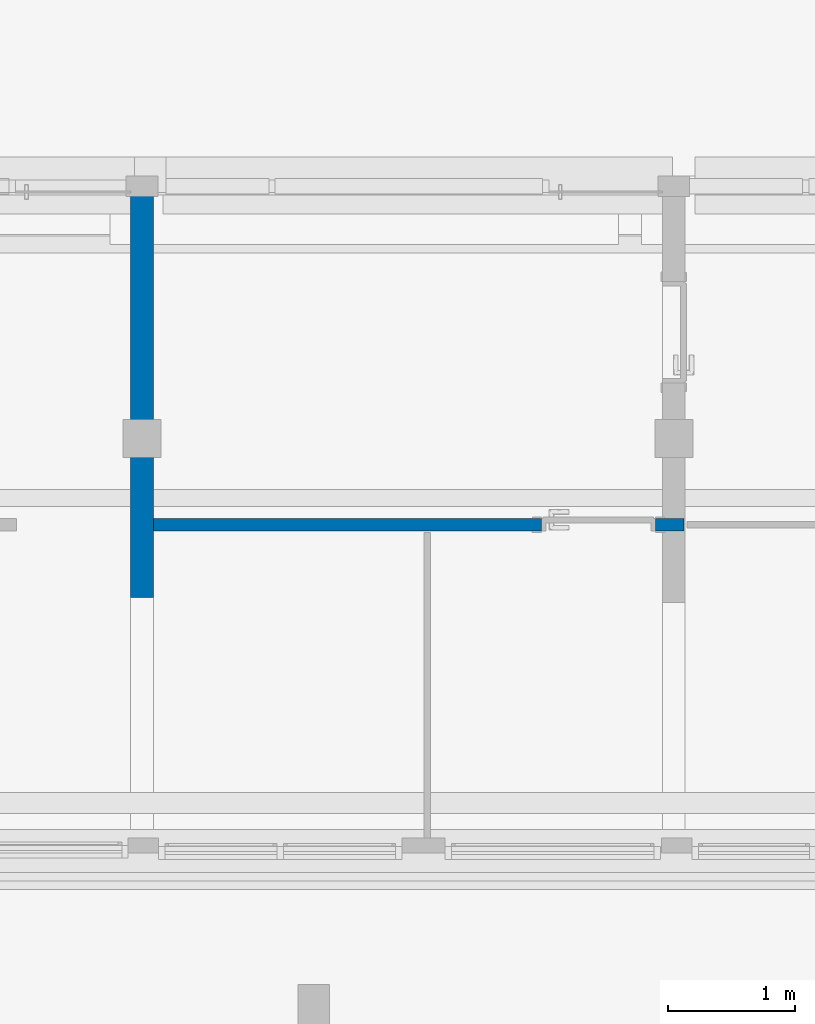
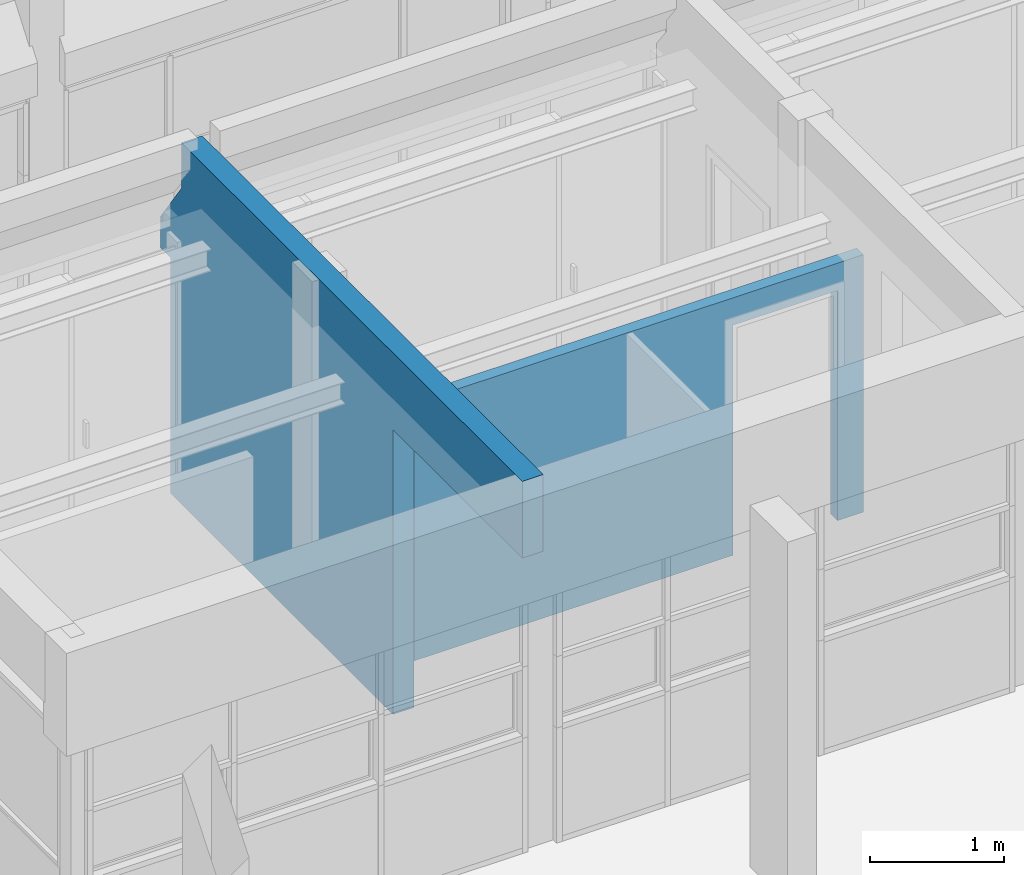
# One storey, part 88 of 117: 2 walls, 4 openings.
"""IFC4 building model written with IfcOpenShell, lengths in metres."""

from ifc_helpers import new_model, entity, si_unit, converted_unit, derived_unit, direction, frame, origin, place, context, subcontext, project, spatial, indexed_curve, outline, extrude, polygons, material, type_object, element, save


model = new_model("IFC4")

# Units and contexts
model_context = context("Model", 3, precision=1e-05, world=origin(), true_north=direction((6.123031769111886e-17, 1.0)))
body_context = subcontext(model_context, "Body", "Model", "MODEL_VIEW")
ifc_project = project(units=[si_unit("LENGTHUNIT", "METRE"), si_unit("AREAUNIT", "SQUARE_METRE"), si_unit("VOLUMEUNIT", "CUBIC_METRE"), converted_unit("PLANEANGLEUNIT", "DEGREE", entity("IfcRatioMeasure", 0.017453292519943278), si_unit("PLANEANGLEUNIT", "RADIAN"), dimensions=[0, 0, 0, 0, 0, 0, 0]), si_unit("MASSUNIT", "GRAM", prefix="KILO"), derived_unit("MASSDENSITYUNIT", [(si_unit("MASSUNIT", "GRAM", prefix="KILO"), 1), (si_unit("LENGTHUNIT", "METRE"), -3)]), derived_unit("MOMENTOFINERTIAUNIT", [(si_unit("LENGTHUNIT", "METRE"), 4)]), si_unit("TIMEUNIT", "SECOND"), si_unit("FREQUENCYUNIT", "HERTZ"), si_unit("THERMODYNAMICTEMPERATUREUNIT", "DEGREE_CELSIUS"), derived_unit("THERMALTRANSMITTANCEUNIT", [(si_unit("MASSUNIT", "GRAM", prefix="KILO"), 1), (si_unit("THERMODYNAMICTEMPERATUREUNIT", "KELVIN"), -1), (si_unit("TIMEUNIT", "SECOND"), -3)]), derived_unit("VOLUMETRICFLOWRATEUNIT", [(si_unit("LENGTHUNIT", "METRE"), 3), (si_unit("TIMEUNIT", "SECOND"), -1)]), derived_unit("MASSFLOWRATEUNIT", [(si_unit("MASSUNIT", "GRAM", prefix="KILO"), 1), (si_unit("TIMEUNIT", "SECOND"), -1)]), derived_unit("ROTATIONALFREQUENCYUNIT", [(si_unit("TIMEUNIT", "SECOND"), -1)]), si_unit("ELECTRICCURRENTUNIT", "AMPERE"), si_unit("ELECTRICVOLTAGEUNIT", "VOLT"), si_unit("POWERUNIT", "WATT"), si_unit("FORCEUNIT", "NEWTON", prefix="KILO"), si_unit("ILLUMINANCEUNIT", "LUX"), si_unit("LUMINOUSFLUXUNIT", "LUMEN"), si_unit("LUMINOUSINTENSITYUNIT", "CANDELA"), derived_unit("USERDEFINED", [(si_unit("MASSUNIT", "GRAM", prefix="KILO"), -1), (si_unit("LENGTHUNIT", "METRE"), -2), (si_unit("TIMEUNIT", "SECOND"), 3), (si_unit("LUMINOUSFLUXUNIT", "LUMEN"), 1)]), derived_unit("SOUNDPOWERUNIT", [(si_unit("MASSUNIT", "GRAM", prefix="KILO"), 1), (si_unit("LENGTHUNIT", "METRE"), 2), (si_unit("TIMEUNIT", "SECOND"), -3)]), derived_unit("SOUNDPRESSUREUNIT", [(si_unit("MASSUNIT", "GRAM", prefix="KILO"), 1), (si_unit("LENGTHUNIT", "METRE"), -1), (si_unit("TIMEUNIT", "SECOND"), -2)]), derived_unit("LINEARVELOCITYUNIT", [(si_unit("LENGTHUNIT", "METRE"), 1), (si_unit("TIMEUNIT", "SECOND"), -1)]), si_unit("PRESSUREUNIT", "PASCAL"), derived_unit("USERDEFINED", [(si_unit("LENGTHUNIT", "METRE"), -2), (si_unit("MASSUNIT", "GRAM", prefix="KILO"), 1), (si_unit("TIMEUNIT", "SECOND"), -2)]), derived_unit("LINEARFORCEUNIT", [(si_unit("MASSUNIT", "GRAM", prefix="KILO"), 1), (si_unit("LENGTHUNIT", "METRE"), 1), (si_unit("TIMEUNIT", "SECOND"), -2), (si_unit("LENGTHUNIT", "METRE"), -1)]), derived_unit("PLANARFORCEUNIT", [(si_unit("MASSUNIT", "GRAM", prefix="KILO"), 1), (si_unit("LENGTHUNIT", "METRE"), 1), (si_unit("TIMEUNIT", "SECOND"), -2), (si_unit("LENGTHUNIT", "METRE"), -2)])], contexts=[model_context])

# Site, building, storey
site_placement = place(None, origin())
site = spatial("IfcSite", under=ifc_project, at=site_placement, Name="Superficie", CompositionType="ELEMENT")
building_placement = place(site_placement, origin())
building = spatial("IfcBuilding", under=site, at=building_placement, CompositionType="ELEMENT")
storey_placement = place(building_placement, origin())
storey = spatial("IfcBuildingStorey", under=building, at=storey_placement, Name="Nivel 0", CompositionType="ELEMENT", Elevation=0.0)

# Wall, openings
ifc_material = material(Name="Muro por defecto", Category="Varios")
wall_type_1 = type_object("IfcWallType", Name="Muro básico:Por defecto - 18 cm 2", PredefinedType="STANDARD")
wall_1_placement = place(storey_placement, frame((4.706799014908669, -1.6541707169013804, 0.0), z_axis=(0.0, 0.0, 1.0), x_axis=(0.0, 1.0, 0.0)))
wall_1 = element("IfcWall", 1, at=wall_1_placement, inside=storey, type_object=wall_type_1, material=ifc_material, Name="Muro básico:Por defecto - 18 cm 2", ObjectType="Muro básico:Por defecto - 18 cm 2", PredefinedType="NOTDEFINED", context=body_context, shape_type="Tessellation", body=[
    polygons([(5.099884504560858, -0.08999999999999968, 3.3), (2.707167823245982e-16, -0.08999999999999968, 3.3), (2.707167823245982e-16, -0.08999999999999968, 2.5999999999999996), (1.9345325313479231, -0.09000000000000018, 2.5999999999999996), (1.9345325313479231, -0.09000000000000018, 0.0), (2.459999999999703, -0.09000000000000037, 0.0), (2.559999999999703, -0.0900000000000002, 0.0), (5.259884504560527, -0.0899999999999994, 0.0), (5.259884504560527, -0.0899999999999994, 2.150000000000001), (5.410000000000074, -0.09000000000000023, 2.150000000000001), (5.410000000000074, -0.09000000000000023, 2.4399999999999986), (5.099884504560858, -0.08999999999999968, 2.8828908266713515), (0.0, 0.08999999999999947, 3.3), (5.099884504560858, 0.08999999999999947, 3.3), (5.099884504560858, 0.08999999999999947, 2.8828908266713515), (5.410000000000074, 0.09, 2.4399999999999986), (5.410000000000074, 0.09, 2.150000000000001), (5.259884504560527, 0.08999999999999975, 2.150000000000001), (5.259884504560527, 0.08999999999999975, 0.0), (1.9345325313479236, 0.09000000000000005, 0.0), (1.9345325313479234, 0.09000000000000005, 2.5999999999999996), (2.707167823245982e-16, 0.08999999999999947, 2.5999999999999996)], [[[1, 2, 3, 4, 5, 6, 7, 8, 9, 10, 11, 12]], [[13, 14, 15, 16, 17, 18, 19, 20, 21, 22]], [[21, 4, 3, 22]], [[4, 21, 20, 5]], [[19, 8, 7, 6, 5, 20]], [[2, 1, 14, 13]], [[2, 13, 22, 3]], [[9, 8, 19, 18]], [[10, 9, 18, 17]], [[11, 10, 17, 16]], [[12, 11, 16, 15]], [[1, 12, 15, 14]]], closed=True),
])
opening_1_placement = place(wall_1_placement, origin())
element("IfcOpeningElement", 2, at=opening_1_placement, cuts=wall_1, Name="Muro básico:Por defecto - 18 cm 2", PredefinedType="OPENING", context=body_context, shape_type="SweptSolid", body=[
    extrude(outline(indexed_curve([(-1.3711927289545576, -0.97159025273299), (1.3711927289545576, -0.97159025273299), (1.3711927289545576, 0.97159025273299), (-1.3711927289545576, 0.97159025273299), (-1.3711927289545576, -0.97159025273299)], self_intersect=False)), frame((0.962942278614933, -0.09000000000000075, 1.228807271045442), z_axis=(0.0, 1.0, 0.0), x_axis=(0.0, 0.0, -1.0)), (0.0, 0.0, 1.0), 0.18000000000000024),
])
opening_2_placement = place(wall_1_placement, origin())
element("IfcOpeningElement", 3, at=opening_2_placement, cuts=wall_1, Name="Muro básico:Por defecto - 18 cm 2", PredefinedType="OPENING", context=body_context, shape_type="SweptSolid", body=[
    extrude(outline(indexed_curve([(-0.07505774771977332, -1.0750000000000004), (0.07505774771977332, -1.0750000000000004), (0.07505774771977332, 1.0750000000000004), (-0.07505774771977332, 1.0750000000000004), (-0.07505774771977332, -1.0750000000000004)], self_intersect=False)), frame((5.3349422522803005, 0.0900000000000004, 1.0750000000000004), z_axis=(0.0, -1.0, 0.0), x_axis=(1.0, 0.0, 0.0)), (0.0, 0.0, 1.0), 0.18),
])
opening_3_placement = place(wall_1_placement, origin())
element("IfcOpeningElement", 4, at=opening_3_placement, cuts=wall_1, Name="Muro básico:Por defecto - 18 cm 2", PredefinedType="OPENING", context=body_context, shape_type="SweptSolid", body=[
    extrude(outline(indexed_curve([(-0.5407227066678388, -0.15505774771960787), (0.31927729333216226, -0.15505774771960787), (0.31927729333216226, 0.15505774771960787), (-0.09783187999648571, 0.15505774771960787), (-0.5407227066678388, -0.15505774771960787)], self_intersect=False)), frame((5.2549422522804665, 0.09000000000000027, 2.9807227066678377), z_axis=(0.0, -1.0, 0.0), x_axis=(0.0, 0.0, 1.0)), (0.0, 0.0, 1.0), 0.18),
])

# Wall, opening
wall_type_2 = type_object("IfcWallType", Name="Muro básico:Por defecto - 10 cm", PredefinedType="STANDARD")
wall_2_placement = place(storey_placement, frame((4.796799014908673, 0.8558292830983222, 0.0)))
wall_2 = element("IfcWall", 5, at=wall_2_placement, inside=storey, type_object=wall_type_2, material=ifc_material, Name="Muro básico:Por defecto - 10 cm", ObjectType="Muro básico:Por defecto - 10 cm", PredefinedType="NOTDEFINED", context=body_context, shape_type="Tessellation", body=[
    polygons([(4.184999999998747, -0.05, 0.0), (4.184999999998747, -0.05, 2.35), (4.014999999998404, -0.05, 2.35), (-4.3677499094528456e-16, -0.05, 2.35), (-4.3677499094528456e-16, -0.05, 0.0), (3.0600000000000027, -0.05, 0.0), (3.0600000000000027, -0.05, 2.099999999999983), (3.9600000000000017, -0.04999999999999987, 2.099999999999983), (3.9600000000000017, -0.04999999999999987, 0.0), (4.014999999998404, -0.05, 0.0), (4.184999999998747, 0.05, 2.35), (4.184999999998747, 0.05, 0.0), (4.014999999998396, 0.05, 0.0), (3.960000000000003, 0.05000000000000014, 0.0), (3.9600000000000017, 0.05000000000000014, 2.099999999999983), (3.0600000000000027, 0.05, 2.099999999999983), (3.0600000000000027, 0.05, 0.0), (-7.597353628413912e-16, 0.05, 0.0), (-7.597353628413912e-16, 0.05, 2.35), (4.014999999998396, 0.05, 2.35)], [[[1, 2, 3, 4, 5, 6, 7, 8, 9, 10]], [[11, 12, 13, 14, 15, 16, 17, 18, 19, 20]], [[5, 18, 17, 6]], [[2, 1, 12, 11]], [[4, 3, 2, 11, 20, 19]], [[5, 4, 19, 18]], [[8, 15, 14, 9]], [[15, 8, 7, 16]], [[16, 7, 6, 17]], [[12, 1, 10, 9, 14, 13]]], closed=True),
])
opening_4_placement = place(wall_2_placement, frame((3.060000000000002, -0.050000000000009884, 0.0)))
element("IfcOpeningElement", 6, at=opening_4_placement, cuts=wall_2, Name="Puerta de 1 hoja:90 x 210 cm:1", PredefinedType="OPENING", context=body_context, shape_type="SweptSolid", body=[
    extrude(outline(indexed_curve([(0.0, 0.9), (0.0, 0.0), (2.099999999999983, 0.0), (2.099999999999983, 0.9), (0.0, 0.9)], self_intersect=False)), frame((0.0, 0.0, 0.0), z_axis=(0.0, 1.0, 0.0), x_axis=(0.0, 0.0, 1.0)), (0.0, 0.0, 1.0), 0.1),
])

save(model, "model.ifc")
